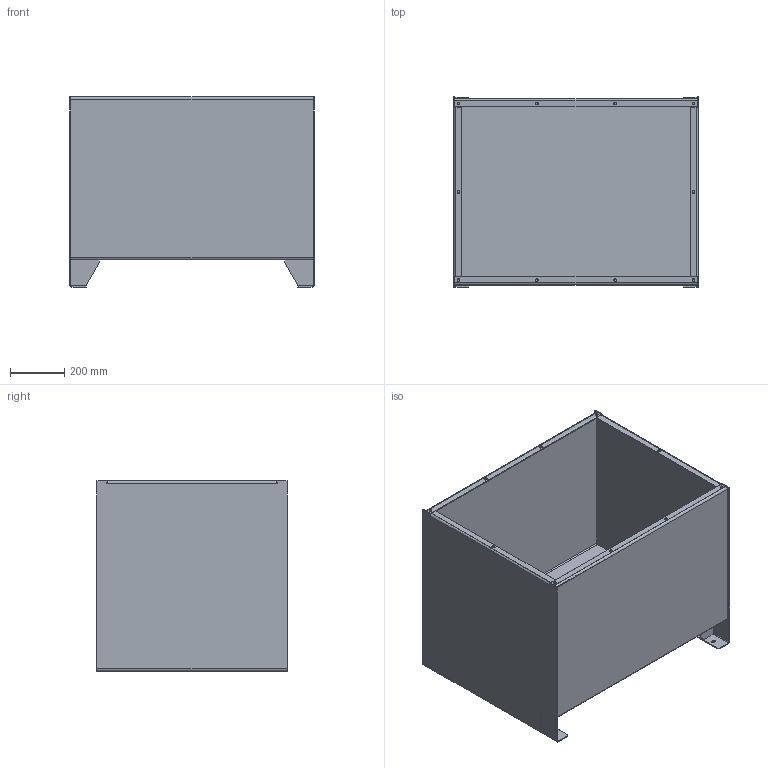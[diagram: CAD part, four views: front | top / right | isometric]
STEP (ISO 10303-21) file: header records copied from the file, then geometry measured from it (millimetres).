
FILE_DESCRIPTION (( 'STEP AP203' ), '1' );
FILE_NAME ('CFP300.STEP', '2016-02-22T13:40:53', ( '' ), ( '' ), 'SwSTEP 2.0', 'SolidWorks 2016', '' );
FILE_SCHEMA (( 'CONFIG_CONTROL_DESIGN' ));
Length unit declared in the file: millimetre
Products named in the file (1): CFP300
Bounding box: 900 x 700 x 700 mm (x, y, z)
Volume: 11318089.1 mm3; surface area: 5716320.5 mm2
Topology: 17 solids, 17 shells, 274 faces, 656 edges, 416 vertices
Faces by surface type: plane 202, cylinder 72
Entity records: 7973 total; most frequent: DIRECTION 1350, CARTESIAN_POINT 1347, ORIENTED_EDGE 1312, EDGE_CURVE 656, VECTOR 512, LINE 512, AXIS2_PLACEMENT_3D 419, VERTEX_POINT 416
